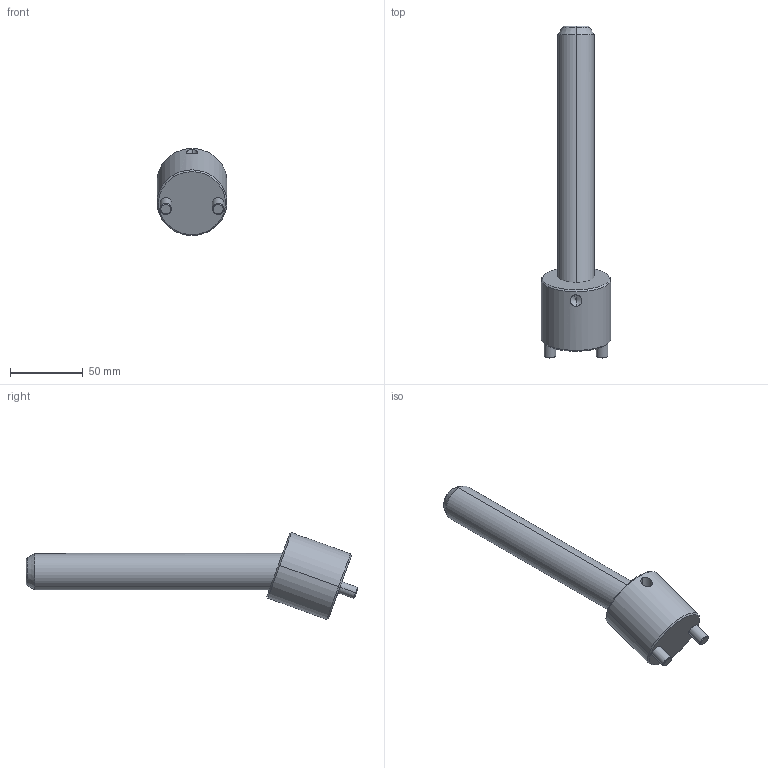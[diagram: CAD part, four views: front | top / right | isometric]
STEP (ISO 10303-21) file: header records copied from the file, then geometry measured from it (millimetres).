
FILE_DESCRIPTION(('CATIA V5 STEP Exchange'),'2;1');
FILE_NAME('C:\Users\Raffaele\Desktop\3D BOLEX\3D FILES CF BOLEX\19-INCLINED ASSEMBLY REF_CI\CI2025175.stp','2019-06-24T06:44:26+00:00',('none'),('none'),'CATIA Version 5 Release 20 GA (IN-10)','CATIA V5 STEP AP203','none');
FILE_SCHEMA(('CONFIG_CONTROL_DESIGN'));
Length unit declared in the file: millimetre
Products named in the file (1): CI2025175
Assembly tree (2 placements, depth 2):
  CI2025175
    #58
    #608
Bounding box: 48 x 228.47 x 59.81 mm (x, y, z)
Volume: 165063.3 mm3; surface area: 31276 mm2
Topology: 2 solids, 2 shells, 39 faces, 82 edges, 47 vertices
Faces by surface type: cone 14, cylinder 14, plane 7, torus 4
Entity records: 1527 total; most frequent: CARTESIAN_POINT 668, ORIENTED_EDGE 160, DIRECTION 145, EDGE_CURVE 80, AXIS2_PLACEMENT_3D 72, VERTEX_POINT 47, EDGE_LOOP 43, ADVANCED_FACE 39
